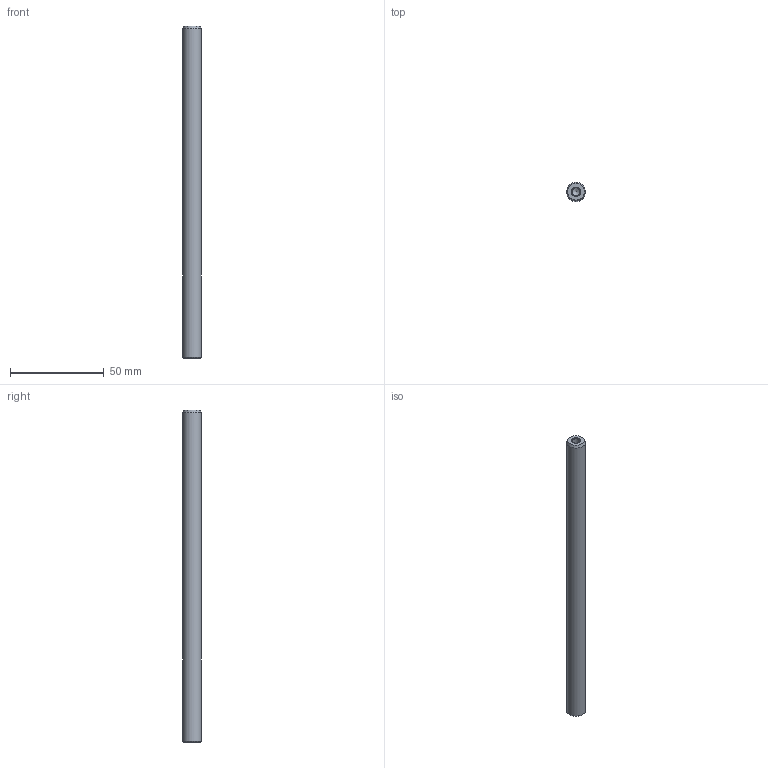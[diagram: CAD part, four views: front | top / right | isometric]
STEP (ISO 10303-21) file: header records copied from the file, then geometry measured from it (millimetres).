
FILE_DESCRIPTION( ( 'STEP AP214' ), '1' );
FILE_NAME( 'U:/Etudes/Top Solid/BIBLIO 3D AVM/STEP/PNEUMATIQUE/GUIDAGES/Accessoires/Colonnes/Ø10x177.step', '2004-12-22T12:24:50', ( ' ' ), ( ' ' ), 'XStep 1.0', ' ', ' ' );
FILE_SCHEMA( ( 'automotive_design' ) );
Length unit declared in the file: metre
Products named in the file (1): 1
Bounding box: 10 x 10 x 177 mm (x, y, z)
Volume: 13514.9 mm3; surface area: 6035.9 mm2
Topology: 1 solids, 1 shells, 13 faces, 27 edges, 16 vertices
Faces by surface type: cone 6, cylinder 5, plane 2
Full cylindrical faces by diameter (mm): 4.134 x4, 10 x1
Entity records: 382 total; most frequent: DIRECTION 52, CARTESIAN_POINT 40, AXIS2_PLACEMENT_3D 26, EDGE_LOOP 24, ORIENTED_EDGE 24, FACE_OUTER_BOUND 18, VERTEX_POINT 14, STYLED_ITEM 13
